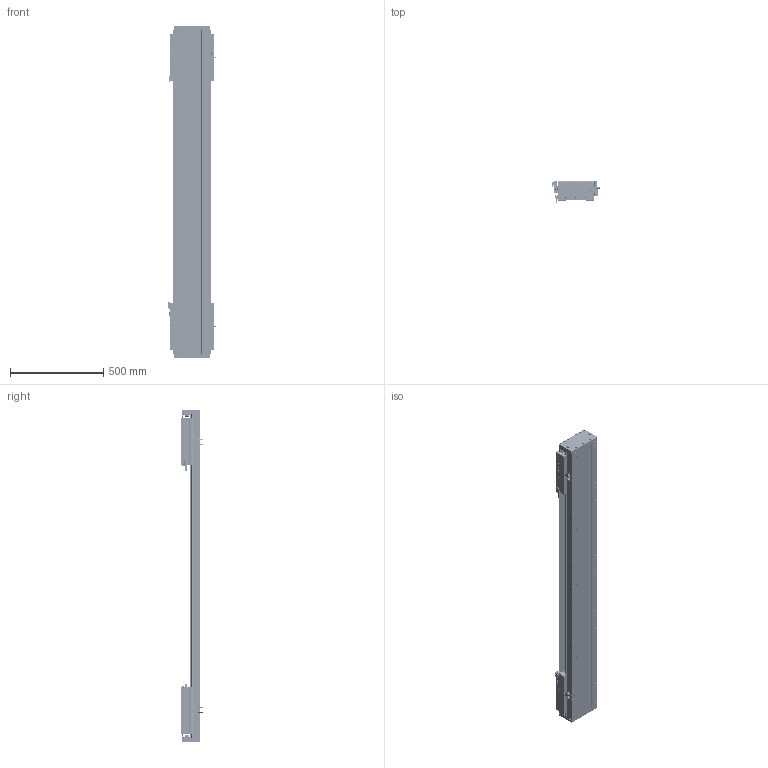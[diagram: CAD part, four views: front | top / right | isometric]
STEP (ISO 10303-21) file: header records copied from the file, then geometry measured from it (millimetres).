
FILE_DESCRIPTION (( 'STEP AP203' ), '1' );
FILE_NAME ('DA-C195-2-C3-T1160-C010-0.2 眻盄萇儂.STEP', '2025-08-14T11:03:39', ( '' ), ( '' ), 'SwSTEP 2.0', 'SolidWorks 2019', '' );
FILE_SCHEMA (( 'CONFIG_CONTROL_DESIGN' ));
Length unit declared in the file: millimetre
Products named in the file (19): DA195詩湍嶺輸; DKW-KGZ-ZJ-00 中间光电开关支架; CU195-C3賑輸-俋楷; PM-Y65嫖萇羲壽郪璃; DA-C195-GD-DB-H-00 傷啣; DA195詩湍菜輸; LMT黍杅芛; DKW-GYP-ZJ-00 笢潔嫖萇覜茼え; 葩璃 DA95-GT-T-00; DA195詩湍裔啣; MS200 棠掑喜S315-T240; DKW168-HXJ-ZJ-00 笢潔滅袉砎蝶; DA165-GYP-00 光电感应片(默认); DA195詩湍郪璃; DA95-HXJ-00 遣喳砎蝶; DA-C195-2-C3-T1160-C010-0.2 眻盄萇儂; IU-CU195-L 菁釱絳寢; IU-CU195-L-00 菁釱(L1740); PM-T45ㄗ侂狟ㄘ
Assembly tree (37 placements, depth 3):
  DA-C195-2-C3-T1160-C010-0.2 眻盄萇儂
    DA195詩湍郪璃
      DA195詩湍菜輸  x2
      DA195詩湍裔啣
      DA195詩湍嶺輸  x2
      DA95-HXJ-00 遣喳砎蝶  x8
      DA-C195-GD-DB-H-00 傷啣  x2
    IU-CU195-L 菁釱絳寢
      IU-CU195-L-00 菁釱(L1740)
      葩璃 DA95-GT-T-00  x4
    LMT黍杅芛  x2
    MS200 棠掑喜S315-T240
    PM-T45ㄗ侂狟ㄘ  x4
    DA165-GYP-00 光电感应片(默认)  x2
    PM-Y65嫖萇羲壽郪璃
    DKW168-HXJ-ZJ-00 笢潔滅袉砎蝶
    DKW-GYP-ZJ-00 笢潔嫖萇覜茼え
    DKW-KGZ-ZJ-00 中间光电开关支架
    CU195-C3賑輸-俋楷  x2
Bounding box: 258.2 x 115.45 x 1780 mm (x, y, z)
Volume: 12791542.7 mm3; surface area: 3572074.5 mm2
Topology: 154 solids, 218 shells, 6551 faces, 17127 edges, 10613 vertices
Faces by surface type: cylinder 2962, plane 2537, cone 884, torus 88, sphere 72, bspline 8
Entity records: 132161 total; most frequent: CARTESIAN_POINT 33049, ORIENTED_EDGE 20270, DIRECTION 19984, EDGE_CURVE 10135, AXIS2_PLACEMENT_3D 7321, VERTEX_POINT 6538, LINE 5342, VECTOR 5342
